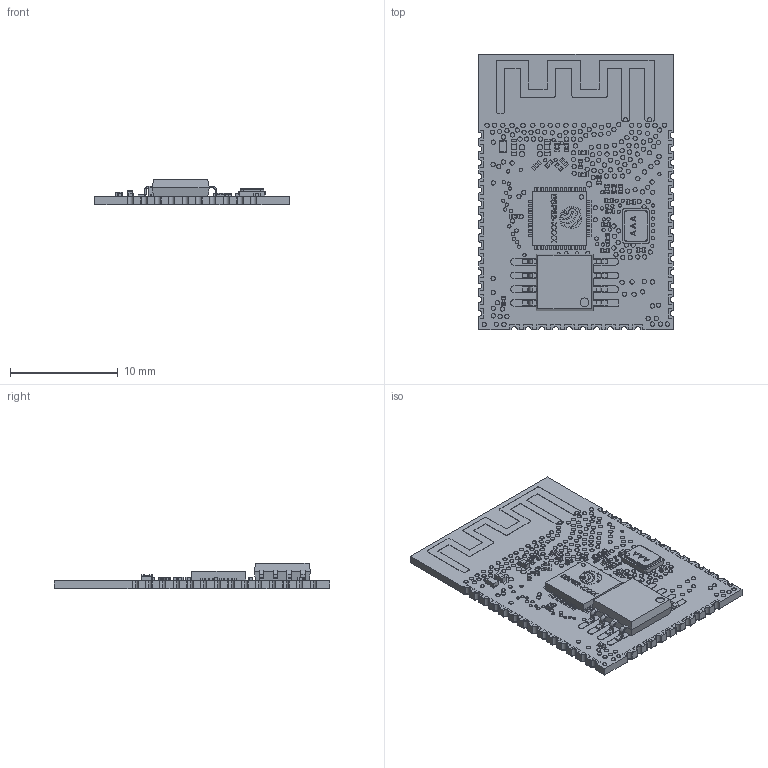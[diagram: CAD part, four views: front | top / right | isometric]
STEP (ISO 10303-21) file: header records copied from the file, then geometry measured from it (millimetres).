
FILE_DESCRIPTION(('FreeCAD Model'),'2;1');
FILE_NAME('/home/minatel/Documents/espressif/kicad/kicad-libraries/3d/ESP32-WROOM-32E_No-Cover.STEP','2021-07-18T19:33:25',('Author'),(''), 'Open CASCADE STEP processor 7.3','FreeCAD','Unknown');
FILE_SCHEMA(('AUTOMOTIVE_DESIGN { 1 0 10303 214 1 1 1 1 }'));
Length unit declared in the file: millimetre
Products named in the file (718): ESP32-WROOM-32E; PCB_ESP32-WROOM-32E_V1(2)^PCB_ESP32-WROOM-32E_V1; DesignRootModel^PCB_ESP32-WROOM-32E_V1(2)_PCB_ESP32-WROOM-32E_V1; Submodel-SLP48_5X5_part^DesignRootModel_PCB_ESP32-WROOM-32E_V1(2)_PCB_
ESP32-WROOM-32E_V1; ESP32_5x5_20210301.STEP^Submodel-SLP48_5X5_part_DesignRootModel_PCB_
ESP32-WROOM-32E_V1(2)_PCB_ESP32-WROOM-32E_V1; ESP32_5x5_20210301.STEP^ESP32_5x5_20210301.STEP_Submodel-SLP48_5X5_
part_DesignRootModel_PCB_ESP32-WROOM-32E_V1(2)_PCB_ESP32-WROOM-32E_V1; Submodel-ANT_L_TYPEA_1501846164_part^DesignRootModel_PCB_
ESP32-WROOM-32E_V1(2)_PCB_ESP32-WROOM-32E_V1; trace_1^Submodel-ANT_L_TYPEA_1501846164_part_DesignRootModel_PCB_
ESP32-WROOM-32E_V1(2)_PCB_ESP32-WROOM-32E_V1; Submodel-SOD882_part^DesignRootModel_PCB_ESP32-WROOM-32E_V1(2)_PCB_
ESP32-WROOM-32E_V1; DFN1006.STEP^Submodel-SOD882_part_DesignRootModel_PCB_ESP32-WROOM-32E_
V1(2)_PCB_ESP32-WROOM-32E_V1; DFN1006.STEP^DFN1006.STEP_Submodel-SOD882_part_DesignRootModel_PCB_
ESP32-WROOM-32E_V1(2)_PCB_ESP32-WROOM-32E_V1; Submodel-R0201_part^DesignRootModel_PCB_ESP32-WROOM-32E_V1(2)_PCB_
ESP32-WROOM-32E_V1; R0201_20210301.STEP^Submodel-R0201_part_DesignRootModel_PCB_
ESP32-WROOM-32E_V1(2)_PCB_ESP32-WROOM-32E_V1; R0201_20210301.STEP^R0201_20210301.STEP_Submodel-R0201_part_
DesignRootModel_PCB_ESP32-WROOM-32E_V1(2)_PCB_ESP32-WROOM-32E_V1; Submodel-R0201_part^DesignRootModel_PCB_ESP32-WROOM-32E_V1(2)_PCB_
ESP32-WROOM-32E_V002; R0201_20210301.STEP^Submodel-R0201_part_DesignRootModel_PCB_
ESP32-WROOM-32E_V1(2)_PCB_ESP32-WROOM-32E_V002; R0201_20210301.STEP^R0201_20210301.STEP_Submodel-R0201_part_
DesignRootModel_PCB_ESP32-WROOM-32E_V1(2)_PCB_ESP32-WROOM-32E_V002; Submodel-R0201_part^DesignRootModel_PCB_ESP32-WROOM-32E_V1(2)_PCB_
ESP32-WROOM-32E_V003; R0201_20210301.STEP^Submodel-R0201_part_DesignRootModel_PCB_
ESP32-WROOM-32E_V1(2)_PCB_ESP32-WROOM-32E_V003; R0201_20210301.STEP^R0201_20210301.STEP_Submodel-R0201_part_
DesignRootModel_PCB_ESP32-WROOM-32E_V1(2)_PCB_ESP32-WROOM-32E_V003; Submodel-L0201_part^DesignRootModel_PCB_ESP32-WROOM-32E_V1(2)_PCB_
ESP32-WROOM-32E_V1; L0201_20210301.STEP^Submodel-L0201_part_DesignRootModel_PCB_
ESP32-WROOM-32E_V1(2)_PCB_ESP32-WROOM-32E_V1; L0201_20210301.STEP^L0201_20210301.STEP_Submodel-L0201_part_
DesignRootModel_PCB_ESP32-WROOM-32E_V1(2)_PCB_ESP32-WROOM-32E_V002; Submodel-L0201_part^DesignRootModel_PCB_ESP32-WROOM-32E_V1(2)_PCB_
ESP32-WROOM-32E_V002; L0201_20210301.STEP^Submodel-L0201_part_DesignRootModel_PCB_
ESP32-WROOM-32E_V1(2)_PCB_ESP32-WROOM-32E_V002; Submodel-C0201_part^DesignRootModel_PCB_ESP32-WROOM-32E_V1(2)_PCB_
ESP32-WROOM-32E_V1; C0201_20210301.STEP^Submodel-C0201_part_DesignRootModel_PCB_
ESP32-WROOM-32E_V1(2)_PCB_ESP32-WROOM-32E_V1; C0201_20210301.STEP^C0201_20210301.STEP_Submodel-C0201_part_
DesignRootModel_PCB_ESP32-WROOM-32E_V1(2)_PCB_ESP32-WROOM-32E_V017; Submodel-C0201_part^DesignRootModel_PCB_ESP32-WROOM-32E_V1(2)_PCB_
ESP32-WROOM-32E_V002; C0201_20210301.STEP^Submodel-C0201_part_DesignRootModel_PCB_
ESP32-WROOM-32E_V1(2)_PCB_ESP32-WROOM-32E_V002; Submodel-C0201_part^DesignRootModel_PCB_ESP32-WROOM-32E_V1(2)_PCB_
ESP32-WROOM-32E_V003; C0201_20210301.STEP^Submodel-C0201_part_DesignRootModel_PCB_
ESP32-WROOM-32E_V1(2)_PCB_ESP32-WROOM-32E_V003; Submodel-C0201_part^DesignRootModel_PCB_ESP32-WROOM-32E_V1(2)_PCB_
ESP32-WROOM-32E_V004; C0201_20210301.STEP^Submodel-C0201_part_DesignRootModel_PCB_
ESP32-WROOM-32E_V1(2)_PCB_ESP32-WROOM-32E_V004; Submodel-C0201_part^DesignRootModel_PCB_ESP32-WROOM-32E_V1(2)_PCB_
ESP32-WROOM-32E_V005; C0201_20210301.STEP^Submodel-C0201_part_DesignRootModel_PCB_
ESP32-WROOM-32E_V1(2)_PCB_ESP32-WROOM-32E_V005; Submodel-C0201_part^DesignRootModel_PCB_ESP32-WROOM-32E_V1(2)_PCB_
ESP32-WROOM-32E_V006; C0201_20210301.STEP^Submodel-C0201_part_DesignRootModel_PCB_
ESP32-WROOM-32E_V1(2)_PCB_ESP32-WROOM-32E_V006; Submodel-C0201_part^DesignRootModel_PCB_ESP32-WROOM-32E_V1(2)_PCB_
ESP32-WROOM-32E_V007; C0201_20210301.STEP^Submodel-C0201_part_DesignRootModel_PCB_
ESP32-WROOM-32E_V1(2)_PCB_ESP32-WROOM-32E_V007 ...
Assembly tree (772 placements, depth 6):
  ESP32-WROOM-32E
    PCB_ESP32-WROOM-32E_V1(2)^PCB_ESP32-WROOM-32E_V1
      DesignRootModel^PCB_ESP32-WROOM-32E_V1(2)_PCB_ESP32-WROOM-32E_V1
        Submodel-SLP48_5X5_part^DesignRootModel_PCB_ESP32-WROOM-32E_V1(2)_PCB_
ESP32-WROOM-32E_V1
          ESP32_5x5_20210301.STEP^Submodel-SLP48_5X5_part_DesignRootModel_PCB_
ESP32-WROOM-32E_V1(2)_PCB_ESP32-WROOM-32E_V1
            ESP32_5x5_20210301.STEP^ESP32_5x5_20210301.STEP_Submodel-SLP48_5X5_
part_DesignRootModel_PCB_ESP32-WROOM-32E_V1(2)_PCB_ESP32-WROOM-32E_V1
        Submodel-ANT_L_TYPEA_1501846164_part^DesignRootModel_PCB_
ESP32-WROOM-32E_V1(2)_PCB_ESP32-WROOM-32E_V1
          trace_1^Submodel-ANT_L_TYPEA_1501846164_part_DesignRootModel_PCB_
ESP32-WROOM-32E_V1(2)_PCB_ESP32-WROOM-32E_V1
        Submodel-SOD882_part^DesignRootModel_PCB_ESP32-WROOM-32E_V1(2)_PCB_
ESP32-WROOM-32E_V1
          DFN1006.STEP^Submodel-SOD882_part_DesignRootModel_PCB_ESP32-WROOM-32E_
V1(2)_PCB_ESP32-WROOM-32E_V1
            DFN1006.STEP^DFN1006.STEP_Submodel-SOD882_part_DesignRootModel_PCB_
ESP32-WROOM-32E_V1(2)_PCB_ESP32-WROOM-32E_V1
        Submodel-R0201_part^DesignRootModel_PCB_ESP32-WROOM-32E_V1(2)_PCB_
ESP32-WROOM-32E_V1
          R0201_20210301.STEP^Submodel-R0201_part_DesignRootModel_PCB_
ESP32-WROOM-32E_V1(2)_PCB_ESP32-WROOM-32E_V1
            R0201_20210301.STEP^R0201_20210301.STEP_Submodel-R0201_part_
DesignRootModel_PCB_ESP32-WROOM-32E_V1(2)_PCB_ESP32-WROOM-32E_V1
        Submodel-R0201_part^DesignRootModel_PCB_ESP32-WROOM-32E_V1(2)_PCB_
ESP32-WROOM-32E_V002
          R0201_20210301.STEP^Submodel-R0201_part_DesignRootModel_PCB_
ESP32-WROOM-32E_V1(2)_PCB_ESP32-WROOM-32E_V002
            R0201_20210301.STEP^R0201_20210301.STEP_Submodel-R0201_part_
DesignRootModel_PCB_ESP32-WROOM-32E_V1(2)_PCB_ESP32-WROOM-32E_V002
        Submodel-R0201_part^DesignRootModel_PCB_ESP32-WROOM-32E_V1(2)_PCB_
ESP32-WROOM-32E_V003
          R0201_20210301.STEP^Submodel-R0201_part_DesignRootModel_PCB_
ESP32-WROOM-32E_V1(2)_PCB_ESP32-WROOM-32E_V003
            R0201_20210301.STEP^R0201_20210301.STEP_Submodel-R0201_part_
DesignRootModel_PCB_ESP32-WROOM-32E_V1(2)_PCB_ESP32-WROOM-32E_V003
        Submodel-L0201_part^DesignRootModel_PCB_ESP32-WROOM-32E_V1(2)_PCB_
ESP32-WROOM-32E_V1
          L0201_20210301.STEP^Submodel-L0201_part_DesignRootModel_PCB_
ESP32-WROOM-32E_V1(2)_PCB_ESP32-WROOM-32E_V1
            L0201_20210301.STEP^L0201_20210301.STEP_Submodel-L0201_part_
DesignRootModel_PCB_ESP32-WROOM-32E_V1(2)_PCB_ESP32-WROOM-32E_V002
        Submodel-L0201_part^DesignRootModel_PCB_ESP32-WROOM-32E_V1(2)_PCB_
ESP32-WROOM-32E_V002
          L0201_20210301.STEP^Submodel-L0201_part_DesignRootModel_PCB_
ESP32-WROOM-32E_V1(2)_PCB_ESP32-WROOM-32E_V002
            L0201_20210301.STEP^L0201_20210301.STEP_Submodel-L0201_part_
DesignRootModel_PCB_ESP32-WROOM-32E_V1(2)_PCB_ESP32-WROOM-32E_V002
        Submodel-C0201_part^DesignRootModel_PCB_ESP32-WROOM-32E_V1(2)_PCB_
ESP32-WROOM-32E_V1
          C0201_20210301.STEP^Submodel-C0201_part_DesignRootModel_PCB_
ESP32-WROOM-32E_V1(2)_PCB_ESP32-WROOM-32E_V1
            C0201_20210301.STEP^C0201_20210301.STEP_Submodel-C0201_part_
DesignRootModel_PCB_ESP32-WROOM-32E_V1(2)_PCB_ESP32-WROOM-32E_V017
        Submodel-C0201_part^DesignRootModel_PCB_ESP32-WROOM-32E_V1(2)_PCB_
ESP32-WROOM-32E_V002
          C0201_20210301.STEP^Submodel-C0201_part_DesignRootModel_PCB_
ESP32-WROOM-32E_V1(2)_PCB_ESP32-WROOM-32E_V002
            C0201_20210301.STEP^C0201_20210301.STEP_Submodel-C0201_part_
DesignRootModel_PCB_ESP32-WROOM-32E_V1(2)_PCB_ESP32-WROOM-32E_V017
        Submodel-C0201_part^DesignRootModel_PCB_ESP32-WROOM-32E_V1(2)_PCB_
ESP32-WROOM-32E_V003
          C0201_20210301.STEP^Submodel-C0201_part_DesignRootModel_PCB_
ESP32-WROOM-32E_V1(2)_PCB_ESP32-WROOM-32E_V003
            C0201_20210301.STEP^C0201_20210301.STEP_Submodel-C0201_part_
DesignRootModel_PCB_ESP32-WROOM-32E_V1(2)_PCB_ESP32-WROOM-32E_V017
        Submodel-C0201_part^DesignRootModel_PCB_ESP32-WROOM-32E_V1(2)_PCB_
ESP32-WROOM-32E_V004
          C0201_20210301.STEP^Submodel-C0201_part_DesignRootModel_PCB_
ESP32-WROOM-32E_V1(2)_PCB_ESP32-WROOM-32E_V004
            C0201_20210301.STEP^C0201_20210301.STEP_Submodel-C0201_part_
DesignRootModel_PCB_ESP32-WROOM-32E_V1(2)_PCB_ESP32-WROOM-32E_V017
        Submodel-C0201_part^DesignRootModel_PCB_ESP32-WROOM-32E_V1(2)_PCB_
ESP32-WROOM-32E_V005
          C0201_20210301.STEP^Submodel-C0201_part_DesignRootModel_PCB_
ESP32-WROOM-32E_V1(2)_PCB_ESP32-WROOM-32E_V005
            C0201_20210301.STEP^C0201_20210301.STEP_Submodel-C0201_part_
DesignRootModel_PCB_ESP32-WROOM-32E_V1(2)_PCB_ESP32-WROOM-32E_V017
        Submodel-C0201_part^DesignRootModel_PCB_ESP32-WROOM-32E_V1(2)_PCB_
ESP32-WROOM-32E_V006
          C0201_20210301.STEP^Submodel-C0201_part_DesignRootModel_PCB_
ESP32-WROOM-32E_V1(2)_PCB_ESP32-WROOM-32E_V006
            C0201_20210301.STEP^C0201_20210301.STEP_Submodel-C0201_part_
DesignRootModel_PCB_ESP32-WROOM-32E_V1(2)_PCB_ESP32-WROOM-32E_V017
        Submodel-C0201_part^DesignRootModel_PCB_ESP32-WROOM-32E_V1(2)_PCB_
ESP32-WROOM-32E_V007
          C0201_20210301.STEP^Submodel-C0201_part_DesignRootModel_PCB_
ESP32-WROOM-32E_V1(2)_PCB_ESP32-WROOM-32E_V007
            C0201_20210301.STEP^C0201_20210301.STEP_Submodel-C0201_part_
DesignRootModel_PCB_ESP32-WROOM-32E_V1(2)_PCB_ESP32-WROOM-32E_V017
        Submodel-C0201_part^DesignRootModel_PCB_ESP32-WROOM-32E_V1(2)_PCB_
ESP32-WROOM-32E_V008
          C0201_20210301.STEP^Submodel-C0201_part_DesignRootModel_PCB_
ESP32-WROOM-32E_V1(2)_PCB_ESP32-WROOM-32E_V008
            C0201_20210301.STEP^C0201_20210301.STEP_Submodel-C0201_part_
DesignRootModel_PCB_ESP32-WROOM-32E_V1(2)_PCB_ESP32-WROOM-32E_V017
        Submodel-C0201_part^DesignRootModel_PCB_ESP32-WROOM-32E_V1(2)_PCB_
ESP32-WROOM-32E_V009
          C0201_20210301.STEP^Submodel-C0201_part_DesignRootModel_PCB_
ESP32-WROOM-32E_V1(2)_PCB_ESP32-WROOM-32E_V009
            C0201_20210301.STEP^C0201_20210301.STEP_Submodel-C0201_part_
DesignRootModel_PCB_ESP32-WROOM-32E_V1(2)_PCB_ESP32-WROOM-32E_V017
        Submodel-C0201_part^DesignRootModel_PCB_ESP32-WROOM-32E_V1(2)_PCB_
ESP32-WROOM-32E_V010
          C0201_20210301.STEP^Submodel-C0201_part_DesignRootModel_PCB_
ESP32-WROOM-32E_V1(2)_PCB_ESP32-WROOM-32E_V010
            C0201_20210301.STEP^C0201_20210301.STEP_Submodel-C0201_part_
DesignRootModel_PCB_ESP32-WROOM-32E_V1(2)_PCB_ESP32-WROOM-32E_V017
        Submodel-C0201_part^DesignRootModel_PCB_ESP32-WROOM-32E_V1(2)_PCB_
ESP32-WROOM-32E_V011
          C0201_20210301.STEP^Submodel-C0201_part_DesignRootModel_PCB_
ESP32-WROOM-32E_V1(2)_PCB_ESP32-WROOM-32E_V011
            C0201_20210301.STEP^C0201_20210301.STEP_Submodel-C0201_part_
DesignRootModel_PCB_ESP32-WROOM-32E_V1(2)_PCB_ESP32-WROOM-32E_V017
        Submodel-C0201_part^DesignRootModel_PCB_ESP32-WROOM-32E_V1(2)_PCB_
ESP32-WROOM-32E_V012
Bounding box: 18 x 25.5 x 2.4 mm (x, y, z)
Volume: 407.6 mm3; surface area: 1686 mm2
Topology: 737 solids, 738 shells, 5656 faces, 18645 edges, 34442 vertices
Faces by surface type: plane 3598, cylinder 1852, sphere 168, bspline 34, torus 4
Entity records: 335119 total; most frequent: CARTESIAN_POINT 85577, DIRECTION 45002, LINE 25937, VECTOR 25937, ORIENTED_EDGE 17450, PCURVE 17450, DEFINITIONAL_REPRESENTATION 17450, AXIS2_PLACEMENT_3D 8790
